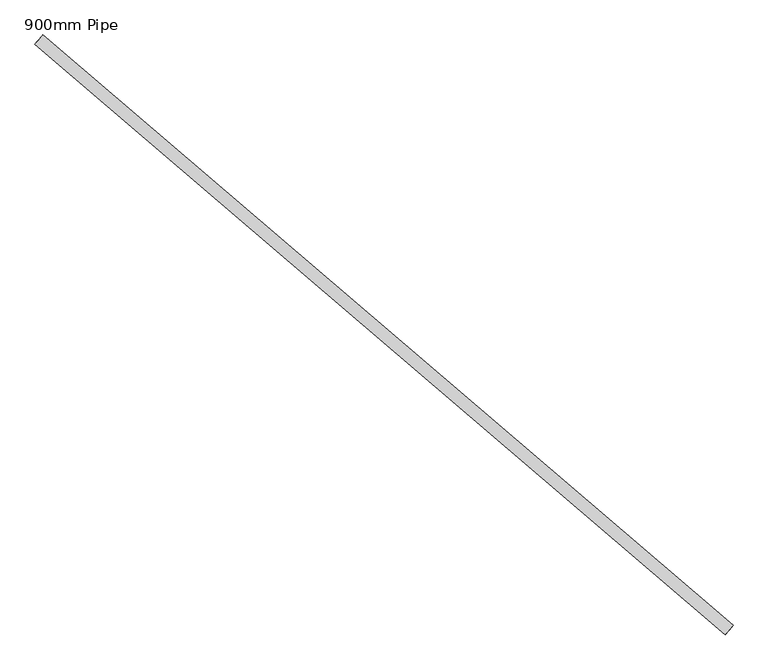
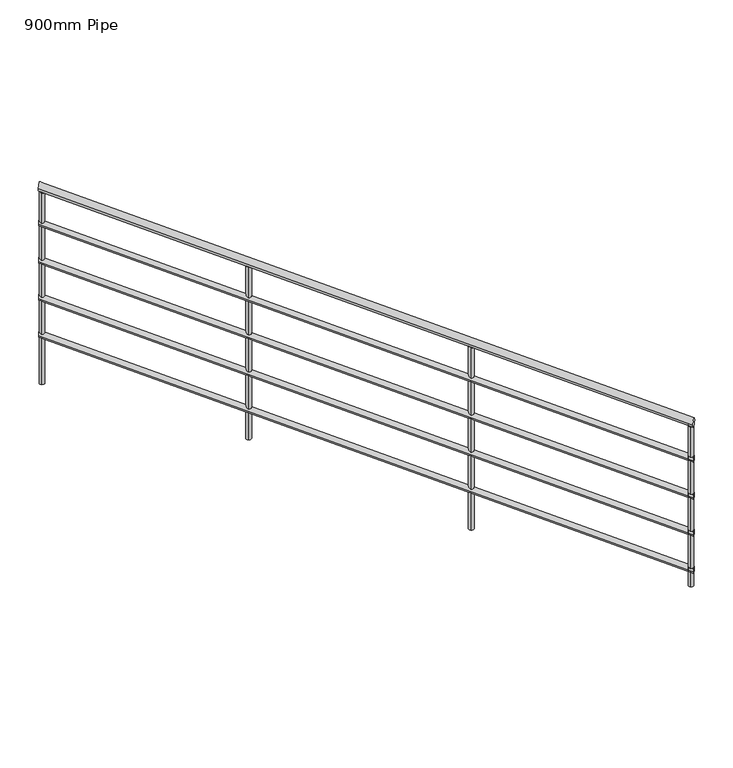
"""IFC4 building model written with IfcOpenShell, lengths in millimetres: railing geometry, 900mm Pipe."""

from ifc_helpers import new_model, si_unit, frame, origin, place, context, project, spatial, circle_curve, ellipse_curve, source, transform, mapped, element, save
from ifc_brep_helpers import plane_surface, cylinder_surface, advanced_brep


def railing_900mm_pipe_814bd0ce(model_context):
    return source(origin(), model_context, "Body", "AdvancedBrep", [
        advanced_brep(
        [(846561.7595698, 27117.709071, 4058.3862583), (846535.7568793, 27087.3140041, 4058.3862583), (844326.1472876, 29030.2541022, 4954.8568465), (844300.1445972, 28999.8590353, 4954.8568465)],
        [
            (0, 1, ellipse_curve(frame((846548.7582245, 27102.5115375, 4058.3862583), z_axis=(0.7598766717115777, -0.65006726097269, 0.0), x_axis=(0.0, 0.0, -1.0)), 20.9078594, 20.0)),
            (1, 0, ellipse_curve(frame((846548.7582245, 27102.5115375, 4058.3862583), z_axis=(0.7598766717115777, -0.65006726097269, 0.0), x_axis=(0.0, 0.0, -1.0)), 20.9078594, 20.0)),
            (2, 3, ellipse_curve(frame((844313.1459424, 29015.0565688, 4954.8568465), z_axis=(-0.7598766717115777, 0.65006726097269, 0.0), x_axis=(0.0, 0.0, -1.0)), 20.9078594, 20.0)),
            (3, 2, ellipse_curve(frame((844313.1459424, 29015.0565688, 4954.8568465), z_axis=(-0.7598766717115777, 0.65006726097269, 0.0), x_axis=(0.0, 0.0, -1.0)), 20.9078594, 20.0)),
            (1, 3),
            (2, 0),
        ],
        [
            plane_surface(frame((846548.7582245, 27102.5115375, 4079.2941176), z_axis=(0.7598766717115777, -0.65006726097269, 0.0), x_axis=(0.65006726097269, 0.7598766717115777, 0.0))),
            plane_surface(frame((844313.1459424, 29015.0565688, 4975.7647059), z_axis=(-0.7598766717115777, 0.65006726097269, 0.0), x_axis=(0.65006726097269, 0.7598766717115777, 0.0))),
            cylinder_surface(frame((846544.3285053, 27106.3011202, 4060.162556), z_axis=(0.7268813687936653, -0.6218400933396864, -0.29147619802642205), x_axis=(-0.65006726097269, -0.7598766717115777, 0.0)), 20.0),
        ],
        [
            (0, [[1, 2]]),
            (1, [[3, 4]]),
            (2, [[-2, 5, -3, 6]]),
            (2, [[-1, -6, -4, -5]]),
        ],
    ),
        advanced_brep(
        [(846558.5092335, 27113.9096876, 3863.6132231), (846539.0072156, 27091.1133874, 3863.6132231), (844322.8969513, 29026.4547189, 4760.0838114), (844303.3949335, 29003.6584187, 4760.0838114)],
        [
            (0, 1, ellipse_curve(frame((846548.7582245, 27102.5115375, 3863.6132231), z_axis=(0.7598766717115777, -0.6500672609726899, 0.0), x_axis=(0.0, 0.0, -1.0)), 15.6808945, 15.0)),
            (1, 0, ellipse_curve(frame((846548.7582245, 27102.5115375, 3863.6132231), z_axis=(0.7598766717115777, -0.6500672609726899, 0.0), x_axis=(0.0, 0.0, -1.0)), 15.6808945, 15.0)),
            (2, 3, ellipse_curve(frame((844313.1459424, 29015.0565688, 4760.0838114), z_axis=(-0.7598766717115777, 0.6500672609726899, 0.0), x_axis=(0.0, 0.0, -1.0)), 15.6808945, 15.0)),
            (3, 2, ellipse_curve(frame((844313.1459424, 29015.0565688, 4760.0838114), z_axis=(-0.7598766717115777, 0.6500672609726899, 0.0), x_axis=(0.0, 0.0, -1.0)), 15.6808945, 15.0)),
            (0, 2),
            (3, 1),
        ],
        [
            plane_surface(frame((846548.7582245, 27102.5115375, 3879.2941176), z_axis=(0.7598766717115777, -0.6500672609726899, 0.0), x_axis=(0.6500672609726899, 0.7598766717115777, 0.0))),
            plane_surface(frame((844313.1459424, 29015.0565688, 4775.7647059), z_axis=(-0.7598766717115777, 0.6500672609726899, 0.0), x_axis=(0.6500672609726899, 0.7598766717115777, 0.0))),
            cylinder_surface(frame((846545.4359351, 27105.3537245, 3864.9454464), z_axis=(0.7268813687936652, -0.6218400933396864, -0.29147619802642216), x_axis=(-0.65006726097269, -0.7598766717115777, 0.0)), 15.0),
        ],
        [
            (0, [[1, 2]]),
            (1, [[3, 4]]),
            (2, [[-1, 5, -4, 6]]),
            (2, [[-2, -6, -3, -5]]),
        ],
    ),
        advanced_brep(
        [(846558.5092335, 27113.9096876, 3663.6132231), (846539.0072156, 27091.1133874, 3663.6132231), (844322.8969513, 29026.4547189, 4560.0838114), (844303.3949335, 29003.6584187, 4560.0838114)],
        [
            (0, 1, ellipse_curve(frame((846548.7582245, 27102.5115375, 3663.6132231), z_axis=(0.7598766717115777, -0.6500672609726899, 0.0), x_axis=(0.0, 0.0, -1.0)), 15.6808945, 15.0)),
            (1, 0, ellipse_curve(frame((846548.7582245, 27102.5115375, 3663.6132231), z_axis=(0.7598766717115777, -0.6500672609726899, 0.0), x_axis=(0.0, 0.0, -1.0)), 15.6808945, 15.0)),
            (2, 3, ellipse_curve(frame((844313.1459424, 29015.0565688, 4560.0838114), z_axis=(-0.7598766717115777, 0.6500672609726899, 0.0), x_axis=(0.0, 0.0, -1.0)), 15.6808945, 15.0)),
            (3, 2, ellipse_curve(frame((844313.1459424, 29015.0565688, 4560.0838114), z_axis=(-0.7598766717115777, 0.6500672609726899, 0.0), x_axis=(0.0, 0.0, -1.0)), 15.6808945, 15.0)),
            (0, 2),
            (3, 1),
        ],
        [
            plane_surface(frame((846548.7582245, 27102.5115375, 3679.2941176), z_axis=(0.7598766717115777, -0.6500672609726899, 0.0), x_axis=(0.6500672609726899, 0.7598766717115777, 0.0))),
            plane_surface(frame((844313.1459424, 29015.0565688, 4575.7647059), z_axis=(-0.7598766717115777, 0.6500672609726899, 0.0), x_axis=(0.6500672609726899, 0.7598766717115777, 0.0))),
            cylinder_surface(frame((846545.4359351, 27105.3537245, 3664.9454464), z_axis=(0.7268813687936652, -0.6218400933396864, -0.29147619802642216), x_axis=(-0.65006726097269, -0.7598766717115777, 0.0)), 15.0),
        ],
        [
            (0, [[1, 2]]),
            (1, [[3, 4]]),
            (2, [[-1, 5, -4, 6]]),
            (2, [[-2, -6, -3, -5]]),
        ],
    ),
        advanced_brep(
        [(846558.5092335, 27113.9096876, 3463.6132231), (846539.0072156, 27091.1133874, 3463.6132231), (844322.8969513, 29026.4547189, 4360.0838114), (844303.3949335, 29003.6584187, 4360.0838114)],
        [
            (0, 1, ellipse_curve(frame((846548.7582245, 27102.5115375, 3463.6132231), z_axis=(0.7598766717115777, -0.6500672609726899, 0.0), x_axis=(0.0, 0.0, -1.0)), 15.6808945, 15.0)),
            (1, 0, ellipse_curve(frame((846548.7582245, 27102.5115375, 3463.6132231), z_axis=(0.7598766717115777, -0.6500672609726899, 0.0), x_axis=(0.0, 0.0, -1.0)), 15.6808945, 15.0)),
            (2, 3, ellipse_curve(frame((844313.1459424, 29015.0565688, 4360.0838114), z_axis=(-0.7598766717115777, 0.6500672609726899, 0.0), x_axis=(0.0, 0.0, -1.0)), 15.6808945, 15.0)),
            (3, 2, ellipse_curve(frame((844313.1459424, 29015.0565688, 4360.0838114), z_axis=(-0.7598766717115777, 0.6500672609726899, 0.0), x_axis=(0.0, 0.0, -1.0)), 15.6808945, 15.0)),
            (0, 2),
            (3, 1),
        ],
        [
            plane_surface(frame((846548.7582245, 27102.5115375, 3479.2941176), z_axis=(0.7598766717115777, -0.6500672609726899, 0.0), x_axis=(0.6500672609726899, 0.7598766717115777, 0.0))),
            plane_surface(frame((844313.1459424, 29015.0565688, 4375.7647059), z_axis=(-0.7598766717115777, 0.6500672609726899, 0.0), x_axis=(0.6500672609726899, 0.7598766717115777, 0.0))),
            cylinder_surface(frame((846545.4359351, 27105.3537245, 3464.9454464), z_axis=(0.7268813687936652, -0.6218400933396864, -0.29147619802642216), x_axis=(-0.65006726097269, -0.7598766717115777, 0.0)), 15.0),
        ],
        [
            (0, [[1, 2]]),
            (1, [[3, 4]]),
            (2, [[-1, 5, -4, 6]]),
            (2, [[-2, -6, -3, -5]]),
        ],
    ),
        advanced_brep(
        [(846558.5092335, 27113.9096876, 3263.6132231), (846539.0072156, 27091.1133874, 3263.6132231), (844322.8969513, 29026.4547189, 4160.0838114), (844303.3949335, 29003.6584187, 4160.0838114)],
        [
            (0, 1, ellipse_curve(frame((846548.7582245, 27102.5115375, 3263.6132231), z_axis=(0.7598766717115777, -0.6500672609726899, 0.0), x_axis=(0.0, 0.0, -1.0)), 15.6808945, 15.0)),
            (1, 0, ellipse_curve(frame((846548.7582245, 27102.5115375, 3263.6132231), z_axis=(0.7598766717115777, -0.6500672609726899, 0.0), x_axis=(0.0, 0.0, -1.0)), 15.6808945, 15.0)),
            (2, 3, ellipse_curve(frame((844313.1459424, 29015.0565688, 4160.0838114), z_axis=(-0.7598766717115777, 0.6500672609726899, 0.0), x_axis=(0.0, 0.0, -1.0)), 15.6808945, 15.0)),
            (3, 2, ellipse_curve(frame((844313.1459424, 29015.0565688, 4160.0838114), z_axis=(-0.7598766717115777, 0.6500672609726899, 0.0), x_axis=(0.0, 0.0, -1.0)), 15.6808945, 15.0)),
            (0, 2),
            (3, 1),
        ],
        [
            plane_surface(frame((846548.7582245, 27102.5115375, 3279.2941176), z_axis=(0.7598766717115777, -0.6500672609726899, 0.0), x_axis=(0.6500672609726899, 0.7598766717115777, 0.0))),
            plane_surface(frame((844313.1459424, 29015.0565688, 4175.7647059), z_axis=(-0.7598766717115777, 0.6500672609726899, 0.0), x_axis=(0.6500672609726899, 0.7598766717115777, 0.0))),
            cylinder_surface(frame((846545.4359351, 27105.3537245, 3264.9454464), z_axis=(0.7268813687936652, -0.6218400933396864, -0.29147619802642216), x_axis=(-0.65006726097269, -0.7598766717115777, 0.0)), 15.0),
        ],
        [
            (0, [[1, 2]]),
            (1, [[3, 4]]),
            (2, [[-1, 5, -4, 6]]),
            (2, [[-2, -6, -3, -5]]),
        ],
    ),
        advanced_brep(
        [(845020.8790404, 28393.1476011, 4646.8927346), (845037.1307219, 28412.1445179, 4646.8927346), (845037.1307219, 28412.1445179, 3717.1764706), (845020.8790404, 28393.1476011, 3717.1764706)],
        [
            (0, 1, ellipse_curve(frame((845029.0048811, 28402.6460595, 4646.8927346), z_axis=(-0.22148596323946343, 0.18947913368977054, -0.9565780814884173), x_axis=(-0.7268813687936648, 0.6218400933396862, 0.29147619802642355)), 13.0674121, 12.5)),
            (1, 2),
            (2, 3, circle_curve(frame((845029.0048811, 28402.6460595, 3717.1764706), z_axis=(0.0, 0.0, 1.0), x_axis=(0.65006726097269, 0.7598766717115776, 0.0)), 12.5)),
            (3, 0),
            (3, 2, circle_curve(frame((845029.0048811, 28402.6460595, 3717.1764706), z_axis=(0.0, 0.0, 1.0), x_axis=(0.65006726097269, 0.7598766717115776, 0.0)), 12.5)),
            (1, 0, ellipse_curve(frame((845029.0048811, 28402.6460595, 4646.8927346), z_axis=(-0.22148596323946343, 0.18947913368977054, -0.9565780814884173), x_axis=(-0.7268813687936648, 0.6218400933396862, 0.29147619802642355)), 13.0674121, 12.5)),
        ],
        [
            cylinder_surface(frame((845029.0048811, 28402.6460595, 3617.1764706), z_axis=(0.0, 0.0, 1.0), x_axis=(0.65006726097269, 0.7598766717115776, 0.0)), 12.5),
            plane_surface(frame((845026.2596459, 28437.8946578, 4654.5104138), z_axis=(0.22148596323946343, -0.18947913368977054, 0.9565780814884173), x_axis=(-0.65006726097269, -0.7598766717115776, 0.0))),
            plane_surface(frame((845064.2534794, 28405.3912947, 3717.1764706), z_axis=(0.0, 0.0, -1.0), x_axis=(-0.65006726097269, -0.7598766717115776, 0.0))),
        ],
        [
            (0, [[1, 2, 3, 4]]),
            (0, [[5, -2, 6, -4]]),
            (1, [[-6, -1]]),
            (2, [[-5, -3]]),
        ],
    ),
        advanced_brep(
        [(845780.7557121, 27743.0803401, 4342.1855668), (845797.0073936, 27762.0772569, 4342.1855668), (845797.0073936, 27762.0772569, 3358.5882353), (845780.7557121, 27743.0803401, 3358.5882353)],
        [
            (0, 1, ellipse_curve(frame((845788.8815528, 27752.5787985, 4342.1855668), z_axis=(-0.22148596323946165, 0.189479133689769, -0.956578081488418), x_axis=(-0.7268813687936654, 0.6218400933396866, 0.2914761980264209)), 13.0674121, 12.5)),
            (1, 2),
            (2, 3, circle_curve(frame((845788.8815528, 27752.5787985, 3358.5882353), z_axis=(0.0, 0.0, 1.0), x_axis=(0.65006726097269, 0.7598766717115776, 0.0)), 12.5)),
            (3, 0),
            (3, 2, circle_curve(frame((845788.8815528, 27752.5787985, 3358.5882353), z_axis=(0.0, 0.0, 1.0), x_axis=(0.65006726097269, 0.7598766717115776, 0.0)), 12.5)),
            (1, 0, ellipse_curve(frame((845788.8815528, 27752.5787985, 4342.1855668), z_axis=(-0.22148596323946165, 0.189479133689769, -0.956578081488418), x_axis=(-0.7268813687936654, 0.6218400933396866, 0.2914761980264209)), 13.0674121, 12.5)),
        ],
        [
            cylinder_surface(frame((845788.8815528, 27752.5787985, 3258.5882353), z_axis=(0.0, 0.0, 1.0), x_axis=(0.65006726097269, 0.7598766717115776, 0.0)), 12.5),
            plane_surface(frame((845786.1363176, 27787.8273968, 4349.8032459), z_axis=(0.22148596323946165, -0.189479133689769, 0.956578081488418), x_axis=(-0.65006726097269, -0.7598766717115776, 0.0))),
            plane_surface(frame((845824.1301512, 27755.3240338, 3358.5882353), z_axis=(0.0, 0.0, -1.0), x_axis=(-0.65006726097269, -0.7598766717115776, 0.0))),
        ],
        [
            (0, [[1, 2, 3, 4]]),
            (0, [[5, -2, 6, -4]]),
            (1, [[-6, -1]]),
            (2, [[-5, -3]]),
        ],
    ),
        advanced_brep(
        [(844314.51856, 28997.4322696, 4930.1401476), (844330.7702416, 29016.4291864, 4930.1401476), (844330.7702416, 29016.4291864, 3896.4705882), (844314.51856, 28997.4322696, 3896.4705882)],
        [
            (0, 1, ellipse_curve(frame((844322.6444008, 29006.930728, 4930.1401476), z_axis=(-0.22148596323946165, 0.189479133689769, -0.956578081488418), x_axis=(-0.7268813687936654, 0.6218400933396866, 0.2914761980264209)), 13.0674121, 12.5)),
            (1, 2),
            (2, 3, circle_curve(frame((844322.6444008, 29006.930728, 3896.4705882), z_axis=(0.0, 0.0, 1.0), x_axis=(0.65006726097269, 0.7598766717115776, 0.0)), 12.5)),
            (3, 0),
            (3, 2, circle_curve(frame((844322.6444008, 29006.930728, 3896.4705882), z_axis=(0.0, 0.0, 1.0), x_axis=(0.65006726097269, 0.7598766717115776, 0.0)), 12.5)),
            (1, 0, ellipse_curve(frame((844322.6444008, 29006.930728, 4930.1401476), z_axis=(-0.22148596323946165, 0.189479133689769, -0.956578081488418), x_axis=(-0.7268813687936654, 0.6218400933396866, 0.2914761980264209)), 13.0674121, 12.5)),
        ],
        [
            cylinder_surface(frame((844322.6444008, 29006.930728, 3796.4705882), z_axis=(0.0, 0.0, 1.0), x_axis=(0.65006726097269, 0.7598766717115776, 0.0)), 12.5),
            plane_surface(frame((844319.8991655, 29042.1793263, 4937.7578267), z_axis=(0.22148596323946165, -0.189479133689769, 0.956578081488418), x_axis=(-0.65006726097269, -0.7598766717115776, 0.0))),
            plane_surface(frame((844357.8929991, 29009.6759633, 3896.4705882), z_axis=(0.0, 0.0, -1.0), x_axis=(-0.65006726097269, -0.7598766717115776, 0.0))),
        ],
        [
            (0, [[1, 2, 3, 4]]),
            (0, [[5, -2, 6, -4]]),
            (1, [[-6, -1]]),
            (2, [[-5, -3]]),
        ],
    ),
        advanced_brep(
        [(846531.1339254, 27101.1389199, 4041.2872385), (846547.3856069, 27120.1358367, 4041.2872385), (846547.3856069, 27120.1358367, 3179.2941176), (846531.1339254, 27101.1389199, 3179.2941176)],
        [
            (0, 1, ellipse_curve(frame((846539.2597662, 27110.6373783, 4041.2872385), z_axis=(-0.22148596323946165, 0.189479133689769, -0.956578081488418), x_axis=(-0.7268813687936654, 0.6218400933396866, 0.2914761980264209)), 13.0674121, 12.5)),
            (1, 2),
            (2, 3, circle_curve(frame((846539.2597662, 27110.6373783, 3179.2941176), z_axis=(0.0, 0.0, 1.0), x_axis=(0.65006726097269, 0.7598766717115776, 0.0)), 12.5)),
            (3, 0),
            (3, 2, circle_curve(frame((846539.2597662, 27110.6373783, 3179.2941176), z_axis=(0.0, 0.0, 1.0), x_axis=(0.65006726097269, 0.7598766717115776, 0.0)), 12.5)),
            (1, 0, ellipse_curve(frame((846539.2597662, 27110.6373783, 4041.2872385), z_axis=(-0.22148596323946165, 0.189479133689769, -0.956578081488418), x_axis=(-0.7268813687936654, 0.6218400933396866, 0.2914761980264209)), 13.0674121, 12.5)),
        ],
        [
            cylinder_surface(frame((846539.2597662, 27110.6373783, 3079.2941176), z_axis=(0.0, 0.0, 1.0), x_axis=(0.65006726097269, 0.7598766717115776, 0.0)), 12.5),
            plane_surface(frame((846536.5145309, 27145.8859766, 4048.9049177), z_axis=(0.22148596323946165, -0.189479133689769, 0.956578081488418), x_axis=(-0.65006726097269, -0.7598766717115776, 0.0))),
            plane_surface(frame((846574.5083645, 27113.3826136, 3179.2941176), z_axis=(0.0, 0.0, -1.0), x_axis=(-0.65006726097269, -0.7598766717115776, 0.0))),
        ],
        [
            (0, [[1, 2, 3, 4]]),
            (0, [[5, -2, 6, -4]]),
            (1, [[-6, -1]]),
            (2, [[-5, -3]]),
        ],
    ),
    ])


if __name__ == "__main__":
    model = new_model("IFC4")
    model_context = context("Model", 3, world=origin())
    ifc_project = project(units=[si_unit("LENGTHUNIT", "METRE", prefix="MILLI")], contexts=[model_context])
    site = spatial("IfcSite", under=ifc_project)
    building = spatial("IfcBuilding", under=site)
    placement = place(None, origin())
    railing_900mm_pipe_shape = railing_900mm_pipe_814bd0ce(model_context)
    element("IfcRailing", 1, ObjectType="900mm Pipe", at=placement, inside=building, context=model_context, shape_type="MappedRepresentation", body=[
        mapped(railing_900mm_pipe_shape, transform((0.0, 0.0, 0.0), x_axis=(1.0, 0.0, 0.0), y_axis=(0.0, 1.0, 0.0), z_axis=(0.0, 0.0, 1.0))),
    ])
    save(model, "model.ifc")
